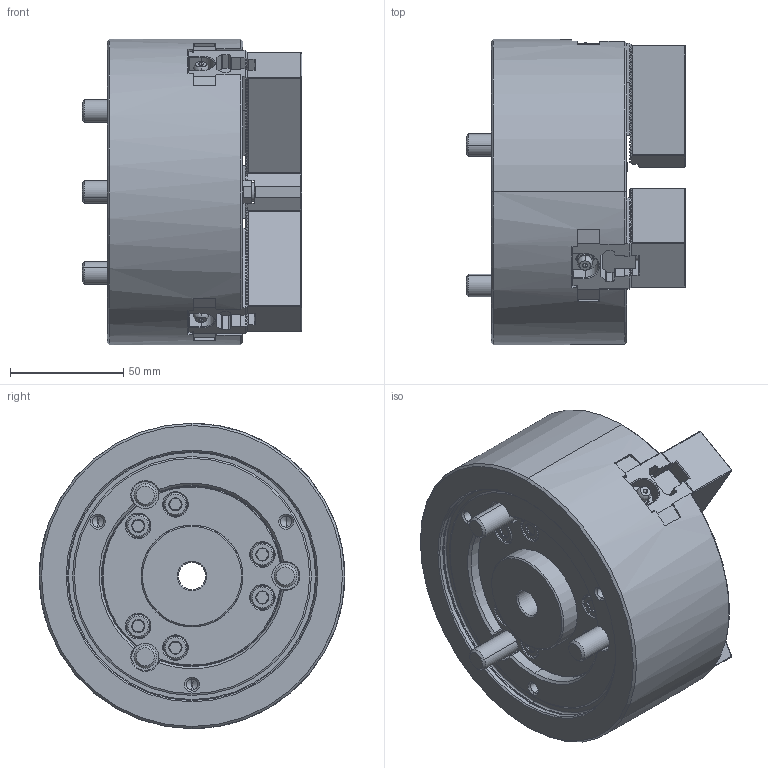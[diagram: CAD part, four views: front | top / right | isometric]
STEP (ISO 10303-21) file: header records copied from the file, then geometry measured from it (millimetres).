
FILE_DESCRIPTION (( 'STEP AP214' ), '1' );
FILE_NAME ('B-205_HCL.STEP', '2025-12-03T06:52:44', ( '' ), ( '' ), 'SwSTEP 2.0', 'SolidWorks 2022', '' );
FILE_SCHEMA (( 'AUTOMOTIVE_DESIGN' ));
Length unit declared in the file: millimetre
Products named in the file (9): DT1_B-205_SOFTJAW^DT1_B-205; DT1_B-205_TNUT^DT1_B-205; DT1_B-205_DRAWNUT^DT1_B-205; DT1_B-205_BASE^DT1_B-205; DT1_B-205_M10x60^DT1_B-205; DT1_B-205_M4x8^DT1_B-205; DT1_B-205_M8x20^DT1_B-205; DT1_B-205_COVER^DT1_B-205; B-205_HCL
Assembly tree (21 placements, depth 2):
  B-205_HCL
    DT1_B-205_SOFTJAW^DT1_B-205  x3
    DT1_B-205_TNUT^DT1_B-205  x3
    DT1_B-205_DRAWNUT^DT1_B-205
    DT1_B-205_COVER^DT1_B-205
    DT1_B-205_BASE^DT1_B-205
    DT1_B-205_M4x8^DT1_B-205  x3
    DT1_B-205_M8x20^DT1_B-205  x6
    DT1_B-205_M10x60^DT1_B-205  x3
Bounding box: 97 x 135 x 135 mm (x, y, z)
Volume: 827997.8 mm3; surface area: 144660.4 mm2
Topology: 21 solids, 33 shells, 3239 faces, 8954 edges, 5838 vertices
Faces by surface type: plane 2399, cylinder 303, cone 298, bspline 162, torus 65, sphere 12
Entity records: 86323 total; most frequent: CARTESIAN_POINT 24349, ORIENTED_EDGE 13594, DIRECTION 11400, EDGE_CURVE 6797, VECTOR 5208, LINE 5208, VERTEX_POINT 4458, AXIS2_PLACEMENT_3D 3096
